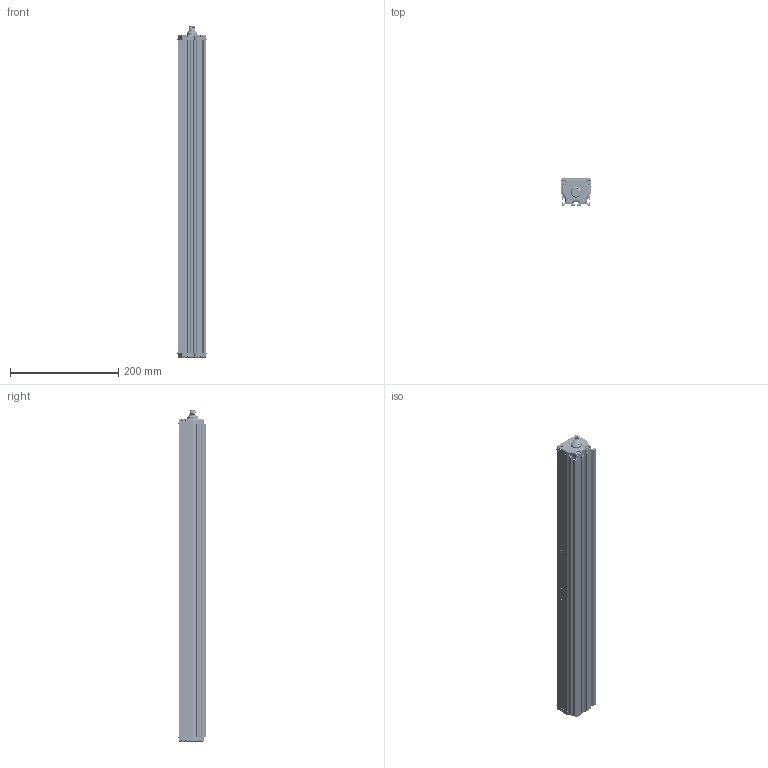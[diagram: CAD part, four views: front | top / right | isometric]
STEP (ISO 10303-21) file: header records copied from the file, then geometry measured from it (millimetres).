
FILE_DESCRIPTION (( 'STEP AP214' ), '1' );
FILE_NAME ('LHI 600 ASY.STEP', '2022-10-11T13:51:34', ( '' ), ( '' ), 'SwSTEP 2.0', 'SolidWorks 2022', '' );
FILE_SCHEMA (( 'AUTOMOTIVE_DESIGN' ));
Length unit declared in the file: millimetre
Products named in the file (26): (6-32 - 1_2 THREAD FORMING) (SC0136) 94209A520_THREAD-FORMING SCREW FOR SOFT METAL_94209A520; TINA2-SERIES_TINA2-SERIES; LHI LED BOARD; BLACK WIRE; END CAP ASY; LHI DRIVER BOARD; M12 Nut; HSG0204 LSR END CAP NON-CONN; BLUE SHORT WIRE; GSKT0021 LTF END CAP GASKET; LHI DRIVER BOARD ASY; LTF CLEAR LENS COVER_578; LHI 600 ASY; JST-xH 7pin Female; BROWN SHORT WIRE; CBL0080; HSG0205 LSR END CAP CONN; BLUE WIRE; LHI LED BOARD ASY; END CAP CONN ASY; BROWN WIRE; SPLICE HEATSHRINK; LTF EXT0285_EXT0273 LTF600 (578mm); xcadmodel-R1132101416354-00000245_Male - Long; GRAY WIRE; WHITE WIRE
Assembly tree (69 placements, depth 4):
  LHI 600 ASY
    LTF EXT0285_EXT0273 LTF600 (578mm)
    LHI DRIVER BOARD ASY  x2
      LHI DRIVER BOARD
    LHI LED BOARD ASY  x2
      LHI LED BOARD
      TINA2-SERIES_TINA2-SERIES
    END CAP CONN ASY
      HSG0205 LSR END CAP CONN
      CBL0080
        GRAY WIRE
        BLACK WIRE
        WHITE WIRE
        JST-xH 7pin Female
        xcadmodel-R1132101416354-00000245_Male - Long
        BLUE SHORT WIRE
        BROWN SHORT WIRE
        BLUE WIRE  x2
        BROWN WIRE  x2
        SPLICE HEATSHRINK  x2
      GSKT0021 LTF END CAP GASKET
    END CAP ASY
      HSG0204 LSR END CAP NON-CONN
      GSKT0021 LTF END CAP GASKET
    (6-32 - 1_2 THREAD FORMING) (SC0136) 94209A520_THREAD-FORMING SCREW FOR SOFT METAL_94209A520  x8
    LTF CLEAR LENS COVER_578
    M12 Nut
Bounding box: 54.2 x 50 x 613.2 mm (x, y, z)
Volume: 654221.7 mm3; surface area: 591734.5 mm2
Topology: 224 solids, 225 shells, 20579 faces, 55750 edges, 35648 vertices
Faces by surface type: bspline 6002, plane 5766, cylinder 5569, cone 3168, torus 66, sphere 8
Entity records: 125658 total; most frequent: CARTESIAN_POINT 55603, ORIENTED_EDGE 13808, DIRECTION 11427, EDGE_CURVE 6904, VERTEX_POINT 4531, AXIS2_PLACEMENT_3D 3946, VECTOR 3535, LINE 3535
